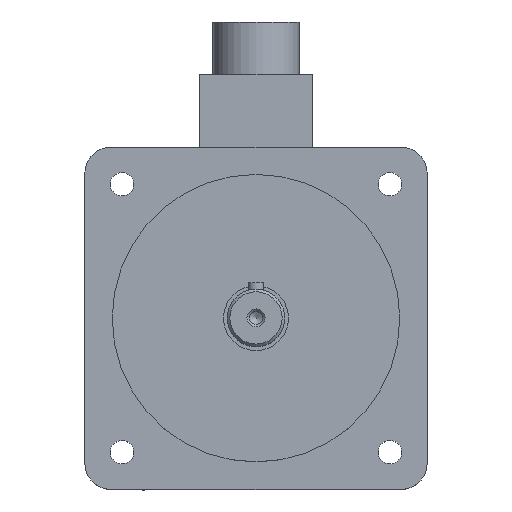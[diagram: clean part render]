
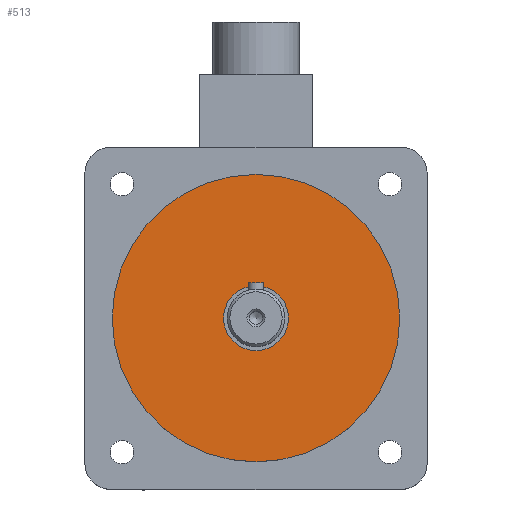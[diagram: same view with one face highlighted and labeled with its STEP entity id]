
A CAD part, top view. The second image highlights one B-rep face of the part: STEP entity #513.
In plain terms, the highlighted planar face has unit normal (0, 0, 1).
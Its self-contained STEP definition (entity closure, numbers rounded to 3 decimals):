
#513=ADVANCED_FACE('',(#1047,#1049),#1051,.T.);
#1047=FACE_BOUND('',#1048,.T.);
#1048=EDGE_LOOP('',(#1423));
#1049=FACE_BOUND('',#1050,.T.);
#1050=EDGE_LOOP('',(#1424));
#1051=PLANE('',#1052);
#1052=AXIS2_PLACEMENT_3D('',#1053,#1054,#1055);
#1053=CARTESIAN_POINT('',(0.,0.,19.));
#1054=DIRECTION('',(0.,0.,1.));
#1055=DIRECTION('',(1.,0.,0.));
#1423=ORIENTED_EDGE('',*,*,#1588,.T.);
#1424=ORIENTED_EDGE('',*,*,#1590,.F.);
#1588=EDGE_CURVE('',#1817,#1817,#1818,.T.);
#1590=EDGE_CURVE('',#1821,#1821,#1822,.T.);
#1817=VERTEX_POINT('',#2342);
#1818=CIRCLE('',#2343,55.);
#1821=VERTEX_POINT('',#2352);
#1822=CIRCLE('',#2353,12.4);
#2342=CARTESIAN_POINT('',(55.,0.,19.));
#2343=AXIS2_PLACEMENT_3D('',#2344,#2345,#2346);
#2344=CARTESIAN_POINT('',(0.,0.,19.));
#2345=DIRECTION('',(0.,0.,1.));
#2346=DIRECTION('',(1.,0.,0.));
#2352=CARTESIAN_POINT('',(12.4,0.,19.));
#2353=AXIS2_PLACEMENT_3D('',#2354,#2355,#2356);
#2354=CARTESIAN_POINT('',(0.,0.,19.));
#2355=DIRECTION('',(0.,0.,1.));
#2356=DIRECTION('',(1.,0.,0.));
